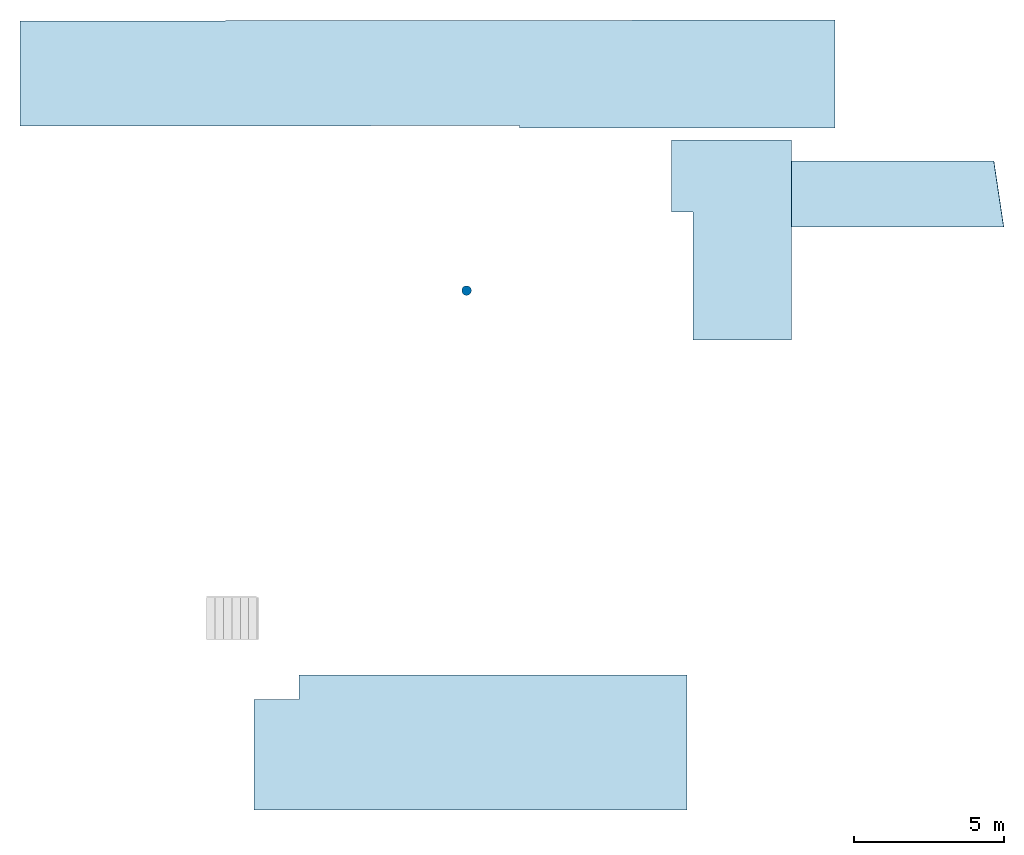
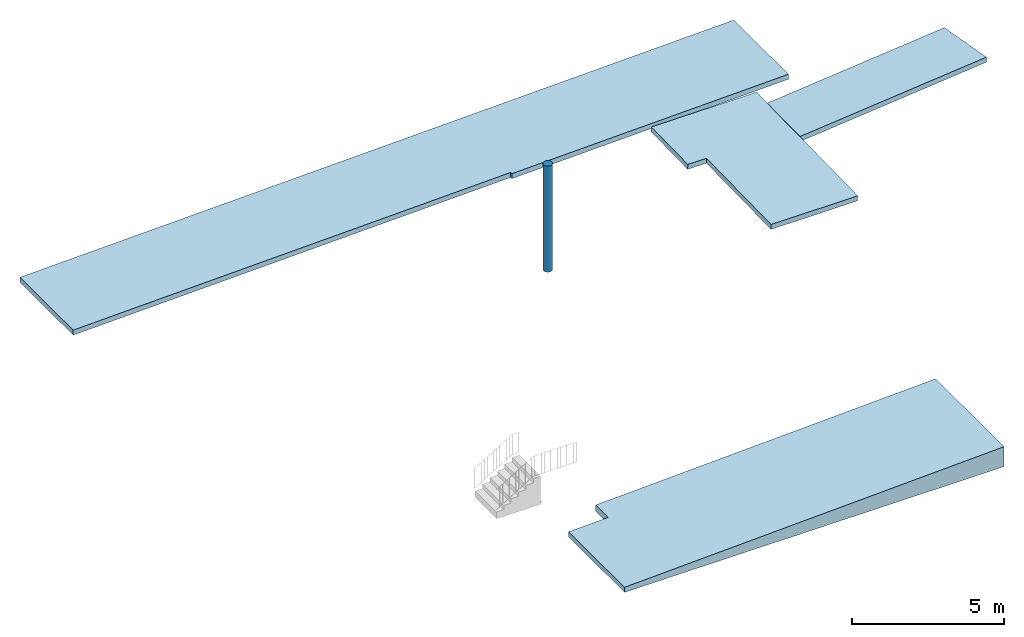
# One storey, incomplete: 4 slabs, 1 column.
"""IFC2X3 building model written with IfcOpenShell, lengths in metres."""

from ifc_helpers import new_model, entity, si_unit, converted_unit, derived_unit, direction, frame, frame_2d, origin, place, context, subcontext, project, spatial, polyline, circle, outline, extrude, faceted_brep, source, transform, mapped, material, material_list, type_object, type_shapes, element, save


model = new_model("IFC2X3")

# Units and contexts
model_context = context("Model", 3, precision=1e-05, world=origin(), true_north=direction((6.123031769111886e-17, 1.0)))
body_context = subcontext(model_context, "Body", "Model", "MODEL_VIEW")
ifc_project = project(units=[si_unit("LENGTHUNIT", "METRE"), si_unit("AREAUNIT", "SQUARE_METRE"), si_unit("VOLUMEUNIT", "CUBIC_METRE"), converted_unit("PLANEANGLEUNIT", "DEGREE", entity("IfcRatioMeasure", 0.017453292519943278), si_unit("PLANEANGLEUNIT", "RADIAN"), dimensions=[0, 0, 0, 0, 0, 0, 0]), si_unit("MASSUNIT", "GRAM", prefix="KILO"), derived_unit("MASSDENSITYUNIT", [(si_unit("MASSUNIT", "GRAM", prefix="KILO"), 1), (si_unit("LENGTHUNIT", "METRE"), -3)]), derived_unit("MOMENTOFINERTIAUNIT", [(si_unit("LENGTHUNIT", "METRE"), 4)]), si_unit("TIMEUNIT", "SECOND"), si_unit("FREQUENCYUNIT", "HERTZ"), si_unit("THERMODYNAMICTEMPERATUREUNIT", "DEGREE_CELSIUS"), derived_unit("THERMALTRANSMITTANCEUNIT", [(si_unit("MASSUNIT", "GRAM", prefix="KILO"), 1), (si_unit("THERMODYNAMICTEMPERATUREUNIT", "KELVIN"), -1), (si_unit("TIMEUNIT", "SECOND"), -3)]), derived_unit("THERMALCONDUCTANCEUNIT", [(si_unit("MASSUNIT", "GRAM", prefix="KILO"), 1), (si_unit("LENGTHUNIT", "METRE"), 1), (si_unit("THERMODYNAMICTEMPERATUREUNIT", "KELVIN"), -1), (si_unit("TIMEUNIT", "SECOND"), -3)]), derived_unit("VOLUMETRICFLOWRATEUNIT", [(si_unit("LENGTHUNIT", "METRE"), 3), (si_unit("TIMEUNIT", "SECOND"), -1)]), derived_unit("MASSFLOWRATEUNIT", [(si_unit("MASSUNIT", "GRAM", prefix="KILO"), 1), (si_unit("TIMEUNIT", "SECOND"), -1)]), derived_unit("ROTATIONALFREQUENCYUNIT", [(si_unit("TIMEUNIT", "SECOND"), -1)]), si_unit("ELECTRICCURRENTUNIT", "AMPERE"), si_unit("ELECTRICVOLTAGEUNIT", "VOLT"), si_unit("POWERUNIT", "WATT"), si_unit("FORCEUNIT", "NEWTON", prefix="KILO"), si_unit("ILLUMINANCEUNIT", "LUX"), si_unit("LUMINOUSFLUXUNIT", "LUMEN"), si_unit("LUMINOUSINTENSITYUNIT", "CANDELA"), derived_unit("USERDEFINED", [(si_unit("MASSUNIT", "GRAM", prefix="KILO"), -1), (si_unit("LENGTHUNIT", "METRE"), -2), (si_unit("TIMEUNIT", "SECOND"), 3), (si_unit("LUMINOUSFLUXUNIT", "LUMEN"), 1)]), derived_unit("USERDEFINED", [(si_unit("MASSUNIT", "GRAM", prefix="KILO"), 1), (si_unit("LENGTHUNIT", "METRE"), 3), (si_unit("TIMEUNIT", "SECOND"), -3), (si_unit("ELECTRICCURRENTUNIT", "AMPERE"), -2)]), derived_unit("USERDEFINED", [(si_unit("LENGTHUNIT", "METRE"), 2), (si_unit("TIMEUNIT", "SECOND"), -2)]), derived_unit("SOUNDPOWERUNIT", [(si_unit("MASSUNIT", "GRAM", prefix="KILO"), 1), (si_unit("LENGTHUNIT", "METRE"), 2), (si_unit("TIMEUNIT", "SECOND"), -3)]), derived_unit("SOUNDPRESSUREUNIT", [(si_unit("MASSUNIT", "GRAM", prefix="KILO"), 1), (si_unit("LENGTHUNIT", "METRE"), -1), (si_unit("TIMEUNIT", "SECOND"), -2)]), derived_unit("LINEARVELOCITYUNIT", [(si_unit("LENGTHUNIT", "METRE"), 1), (si_unit("TIMEUNIT", "SECOND"), -1)]), si_unit("PRESSUREUNIT", "PASCAL"), derived_unit("USERDEFINED", [(si_unit("LENGTHUNIT", "METRE"), -2), (si_unit("MASSUNIT", "GRAM", prefix="KILO"), 1), (si_unit("TIMEUNIT", "SECOND"), -2)]), derived_unit("LINEARFORCEUNIT", [(si_unit("MASSUNIT", "GRAM", prefix="KILO"), 1), (si_unit("LENGTHUNIT", "METRE"), 1), (si_unit("TIMEUNIT", "SECOND"), -2), (si_unit("LENGTHUNIT", "METRE"), -1)]), derived_unit("PLANARFORCEUNIT", [(si_unit("MASSUNIT", "GRAM", prefix="KILO"), 1), (si_unit("LENGTHUNIT", "METRE"), 1), (si_unit("TIMEUNIT", "SECOND"), -2), (si_unit("LENGTHUNIT", "METRE"), -2)]), derived_unit("SPECIFICHEATCAPACITYUNIT", [(si_unit("LENGTHUNIT", "METRE"), 2), (si_unit("TIMEUNIT", "SECOND"), -2), (si_unit("THERMODYNAMICTEMPERATUREUNIT", "KELVIN"), -1)]), derived_unit("VAPORPERMEABILITYUNIT", [(si_unit("TIMEUNIT", "SECOND"), 1), (si_unit("LENGTHUNIT", "METRE"), -1)]), derived_unit("DYNAMICVISCOSITYUNIT", [(si_unit("MASSUNIT", "GRAM", prefix="KILO"), 1), (si_unit("LENGTHUNIT", "METRE"), -1), (si_unit("TIMEUNIT", "SECOND"), -1)]), derived_unit("THERMALEXPANSIONCOEFFICIENTUNIT", [(si_unit("THERMODYNAMICTEMPERATUREUNIT", "KELVIN"), -1)])], contexts=[model_context])

# Site, building, storey
site_placement = place(None, origin())
site = spatial("IfcSite", under=ifc_project, at=site_placement, Name="Default", CompositionType="ELEMENT")
building_placement = place(site_placement, origin())
building = spatial("IfcBuilding", under=site, at=building_placement, CompositionType="ELEMENT")
storey_placement = place(building_placement, frame((0.0, 0.0, -2.0)))
storey = spatial("IfcBuildingStorey", under=building, at=storey_placement, Name="EDL R+1", CompositionType="ELEMENT", Elevation=-1.9999999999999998)

# Column
ifc_material_1 = material(Name="Surface-Blanc")
ifc_material_2 = material(Name="<Unnamed>")
ifc_material_list = material_list([ifc_material_2, ifc_material_1])
column_type = type_object("IfcColumnType", Name="Pot-001 17298:Pot-001 17298", PredefinedType="COLUMN", material=ifc_material_list)
shared_shape = source(origin(), body_context, "Body", "SweptSolid", [
    extrude(circle(Radius=0.16, at=frame_2d((-8.720914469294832e-31, 2.660266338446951e-16), x_axis=(1.0, 0.0))), frame((0.0, 0.0, 0.0), z_axis=(0.0, 0.0, 1.0), x_axis=(-1.0, 0.0, 0.0)), (0.0, 0.0, 1.0), 4.26),
])
type_shapes(column_type, [shared_shape])
column_placement = place(storey_placement, frame((95.32075227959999, 24.1672094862, 0.8)))
element("IfcColumn", 1, at=column_placement, inside=storey, type_object=column_type, material=ifc_material_1, Name="Pot-001", ObjectType="Pot-001 17298:Pot-001 17298", context=body_context, shape_type="MappedRepresentation", body=[
    mapped(shared_shape, transform((0.0, 0.0, 0.0), scale=1.0)),
])

# Slabs
ifc_material_3 = material(Name="Env. - Herbe brune")
slab_type_1 = type_object("IfcSlabType", Name="Dalle-006", PredefinedType="FLOOR", material=ifc_material_3)
slab_1_placement = place(storey_placement, frame((88.25075224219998, 6.877209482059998, 0.8)))
element("IfcSlab", 2, at=slab_1_placement, inside=storey, type_object=slab_type_1, Name="Dalle-006 133760:Dalle-006 133760", ObjectType="Dalle-006 133760:Dalle-006 133760", PredefinedType="FLOOR", context=body_context, shape_type="Brep", body=[
    faceted_brep([(0.0, 3.6800000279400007, 0.0), (0.0, 0.0, 0.0), (0.0, 0.0, 0.19999999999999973), (0.0, 3.6800000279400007, 0.19999999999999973), (1.5000002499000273, 3.6800000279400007, 0.0), (1.5000002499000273, 4.500000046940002, 0.0), (14.410000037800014, 4.500000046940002, 0.0), (14.410000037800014, 0.0, 0.0), (14.410000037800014, 0.0, 0.7999999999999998), (1.5000002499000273, 3.6800000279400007, 0.25), (1.5000002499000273, 4.500000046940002, 0.24999999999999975), (14.410000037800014, 4.500000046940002, 0.7999999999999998)], [[[0, 1, 2, 3]], [[1, 0, 4, 5, 6, 7]], [[2, 1, 7, 8]], [[3, 2, 9]], [[0, 3, 9, 4]], [[9, 10, 5, 4]], [[5, 10, 11, 6]], [[8, 7, 6, 11]], [[2, 8, 9]], [[10, 9, 8, 11]]]),
])
ifc_material_4 = material(Name="Sol - Moquette 03")
slab_type_2 = type_object("IfcSlabType", Name="Toit-04", PredefinedType="ROOF", material=ifc_material_4)
slab_2_placement = place(storey_placement, frame((106.12886302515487, 26.277209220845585, 0.8793896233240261)))
element("IfcSlab", 3, at=slab_2_placement, inside=storey, type_object=slab_type_2, Name="Toit-04:Toit-04", ObjectType="Toit-04:Toit-04", PredefinedType="ROOF", context=body_context, shape_type="Brep", body=[
    faceted_brep([(7.066624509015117, 0.0, 0.9057099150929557), (6.736624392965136, 2.200000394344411, 0.8727099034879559), (0.0020379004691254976, 2.200000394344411, 0.19925125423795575), (0.0, 7.6254224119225e-06, 0.19904746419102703), (7.076326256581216, 1.0596344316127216e-08, 0.7066800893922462), (6.7463261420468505, 2.200000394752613, 0.6736800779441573), (0.011563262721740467, 2.200000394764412, 0.00020379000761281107), (0.009525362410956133, 7.636452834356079e-06, 0.0), (0.009525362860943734, 7.636369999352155e-06, 0.0)], [[[0, 1, 2, 3]], [[1, 0, 4, 5]], [[2, 1, 5, 6]], [[3, 2, 6, 7]], [[0, 3, 8, 4]], [[5, 4, 8, 6]]]),
])
slab_type_3 = type_object("IfcSlabType", Name="Toit-02", PredefinedType="ROOF", material=ifc_material_4)
slab_3_placement = place(storey_placement, frame((80.4609400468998, 29.577209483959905, 0.049999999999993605)))
element("IfcSlab", 4, at=slab_3_placement, inside=storey, type_object=slab_type_3, Name="Toit-02 135919:Toit-02 135919", ObjectType="Toit-02 135919:Toit-02 135919", PredefinedType="ROOF", context=body_context, shape_type="Brep", body=[
    faceted_brep([(27.119812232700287, 0.0, 1.0136443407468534), (27.11760135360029, 3.5930507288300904, 1.0135780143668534), (0.0, 3.559678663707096, 0.20004997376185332), (0.0, 0.05967601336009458, 0.20004997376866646), (16.619812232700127, 0.08012905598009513, 0.6986443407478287), (16.619812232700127, 0.0, 0.6986443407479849), (27.121810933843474, 0.0, 0.8136543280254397), (27.119600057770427, 3.5930458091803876, 0.8135880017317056), (27.119600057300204, 3.5930458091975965, 0.8135880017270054), (0.0, 3.5596712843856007, 0.0), (0.0, 0.05966863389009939, 0.0), (16.619812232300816, 0.08012167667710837, 0.49859436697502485), (16.619812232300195, 0.08012167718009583, 0.4985943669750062), (16.619812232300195, 0.0, 0.4985943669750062)], [[[0, 1, 2, 3, 4, 5]], [[1, 0, 6, 7]], [[2, 1, 8, 9]], [[3, 2, 9, 10]], [[4, 3, 10, 11]], [[5, 4, 12, 13]], [[0, 5, 13, 6]], [[8, 6, 13, 12, 10, 9]]]),
])
slab_type_4 = type_object("IfcSlabType", Name="Toit-02", PredefinedType="ROOF", material=ifc_material_4)
slab_4_placement = place(storey_placement, origin())
element("IfcSlab", 5, at=slab_4_placement, inside=storey, type_object=slab_type_4, Name="Toit-02 146623:Toit-02 146623", ObjectType="Toit-02 146623:Toit-02 146623", PredefinedType="ROOF", context=body_context, shape_type="SweptSolid", body=[
    extrude(outline(polyline([(-3.0172699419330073, -1.569806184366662), (-0.6167899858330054, -1.569806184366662), (-0.6167899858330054, -0.8603876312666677), (3.6340599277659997, -0.8603876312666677), (3.6340599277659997, 2.43019381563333), (-3.0172699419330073, 2.43019381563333), (-3.0172699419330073, -1.569806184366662)])), frame((103.71113991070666, 26.160542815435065, 0.8376666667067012), z_axis=(0.0, -0.01999600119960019, 0.999800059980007), x_axis=(0.0, -0.999800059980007, -0.01999600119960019)), (0.0, 0.0, 1.0), 0.19999999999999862),
])

save(model, "model.ifc")
